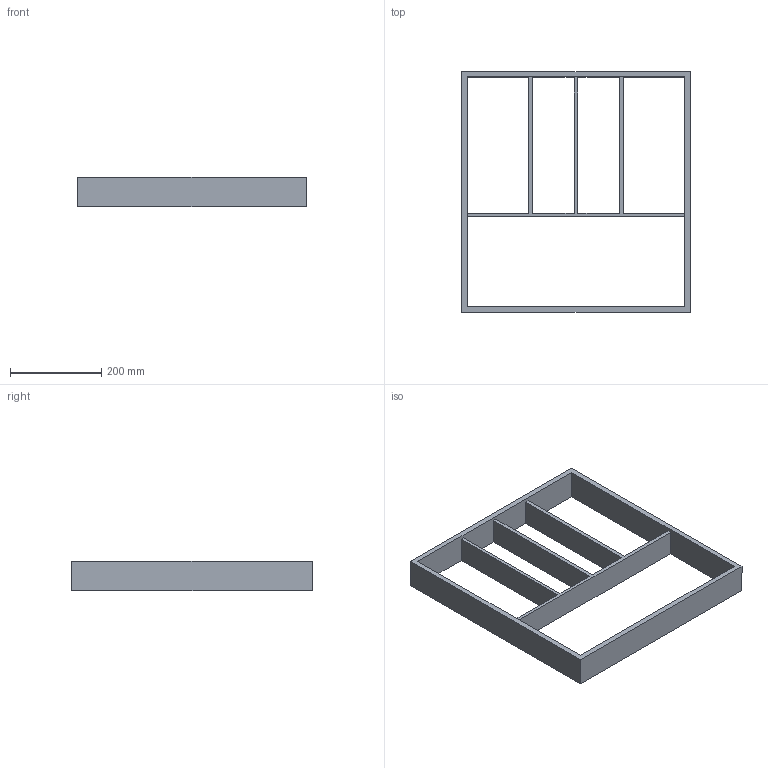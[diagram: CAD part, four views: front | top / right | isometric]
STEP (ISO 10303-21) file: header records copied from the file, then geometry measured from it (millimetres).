
FILE_DESCRIPTION (( 'STEP AP214' ), '1' );
FILE_NAME ('Vario Multi NL550_B600_19 mm_Buche.step', '2010-10-07T06:24:20', ( 'grass' ), ( '' ), 'SwSTEP 2.0', 'SolidWorks 2010', '' );
FILE_SCHEMA (( 'AUTOMOTIVE_DESIGN' ));
Length unit declared in the file: millimetre
Products named in the file (1): Vario Multi NL550_B600_19 mm_Buche
Bounding box: 502 x 529 x 65 mm (x, y, z)
Volume: 2197646.4 mm3; surface area: 485180 mm2
Topology: 1 solids, 1 shells, 22 faces, 72 edges, 48 vertices
Faces by surface type: plane 22
Entity records: 830 total; most frequent: ORIENTED_EDGE 144, CARTESIAN_POINT 143, DIRECTION 118, LINE 72, EDGE_CURVE 72, VECTOR 72, VERTEX_POINT 48, EDGE_LOOP 28
